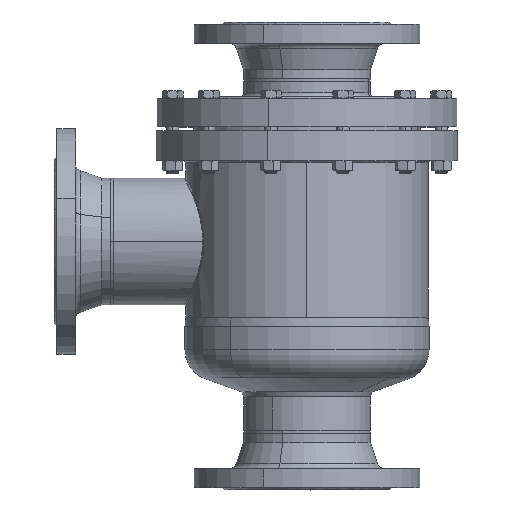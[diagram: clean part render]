
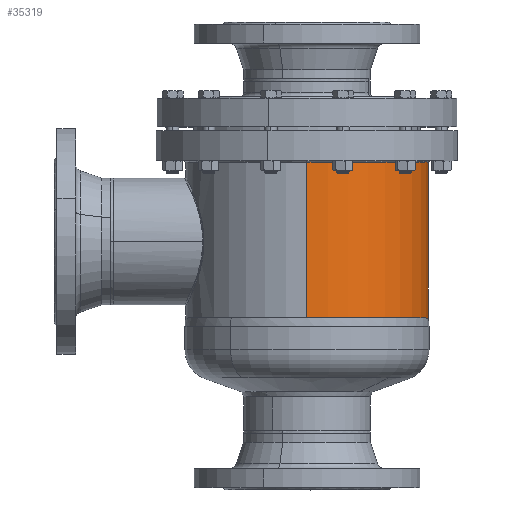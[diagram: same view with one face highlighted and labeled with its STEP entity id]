
A CAD part, top view. The second image highlights one B-rep face of the part: STEP entity #35319.
In plain terms, the highlighted cylindrical face has radius 161 mm (diameter 322 mm), a partial arc.
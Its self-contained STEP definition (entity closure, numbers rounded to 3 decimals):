
#33070 = EDGE_CURVE ( 'NONE', #32628, #32183, #12520, .T. ) ;
#33810 = ORIENTED_EDGE ( 'NONE', *, *, #33070, .T. ) ;
#34476 = LINE ( 'NONE', #34477, #34478 ) ;
#34477 = CARTESIAN_POINT ( 'NONE',  ( 0., 45.442, 161. ) ) ;
#34478 = VECTOR ( 'NONE', #34479, 1000. ) ;
#34479 = DIRECTION ( 'NONE',  ( 0., 1., 0. ) ) ;
#34842 = EDGE_LOOP ( 'NONE', ( #33810, #31156, #6031, #3851 ) ) ;
#35319 = ADVANCED_FACE ( 'NONE', ( #14995 ), #14996, .T. ) ;
#3114 = EDGE_CURVE ( 'NONE', #32628, #4877, #34476, .T. ) ;
#3851 = ORIENTED_EDGE ( 'NONE', *, *, #3114, .F. ) ;
#4877 = VERTEX_POINT ( 'NONE', #11840 ) ;
#5308 = EDGE_CURVE ( 'NONE', #4877, #7057, #12459, .T. ) ;
#6031 = ORIENTED_EDGE ( 'NONE', *, *, #5308, .F. ) ;
#7057 = VERTEX_POINT ( 'NONE', #14932 ) ;
#7503 = EDGE_CURVE ( 'NONE', #32183, #7057, #16141, .T. ) ;
#11277 = CARTESIAN_POINT ( 'NONE',  ( 0., -19.982, -161. ) ) ;
#11790 = CARTESIAN_POINT ( 'NONE',  ( 0., -19.982, 161. ) ) ;
#11840 = CARTESIAN_POINT ( 'NONE',  ( 0., 188.573, 161. ) ) ;
#12459 = CIRCLE ( 'NONE', #12460, 161. ) ;
#12460 = AXIS2_PLACEMENT_3D ( 'NONE', #12461, #12462, #12463 ) ;
#12461 = CARTESIAN_POINT ( 'NONE',  ( 0., 188.573, 0. ) ) ;
#12462 = DIRECTION ( 'NONE',  ( 0., 1., 0. ) ) ;
#12463 = DIRECTION ( 'NONE',  ( 0., 0., 1. ) ) ;
#12520 = CIRCLE ( 'NONE', #12521, 161. ) ;
#12521 = AXIS2_PLACEMENT_3D ( 'NONE', #12522, #12523, #12524 ) ;
#12522 = CARTESIAN_POINT ( 'NONE',  ( 0., -19.982, 0. ) ) ;
#12523 = DIRECTION ( 'NONE',  ( 0., 1., 0. ) ) ;
#12524 = DIRECTION ( 'NONE',  ( 0., 0., 1. ) ) ;
#31156 = ORIENTED_EDGE ( 'NONE', *, *, #7503, .T. ) ;
#14932 = CARTESIAN_POINT ( 'NONE',  ( 0., 188.573, -161. ) ) ;
#14995 = FACE_OUTER_BOUND ( 'NONE', #34842, .T. ) ;
#14996 = CYLINDRICAL_SURFACE ( 'NONE', #14997, 161. ) ;
#14997 = AXIS2_PLACEMENT_3D ( 'NONE', #14998, #14999, #15000 ) ;
#14998 = CARTESIAN_POINT ( 'NONE',  ( 0., 45.442, 0. ) ) ;
#14999 = DIRECTION ( 'NONE',  ( 0., 1., 0. ) ) ;
#15000 = DIRECTION ( 'NONE',  ( 0., 0., 1. ) ) ;
#32183 = VERTEX_POINT ( 'NONE', #11277 ) ;
#16141 = LINE ( 'NONE', #16142, #16143 ) ;
#16142 = CARTESIAN_POINT ( 'NONE',  ( 0., 45.442, -161. ) ) ;
#16143 = VECTOR ( 'NONE', #16144, 1000. ) ;
#16144 = DIRECTION ( 'NONE',  ( 0., 1., 0. ) ) ;
#32628 = VERTEX_POINT ( 'NONE', #11790 ) ;
